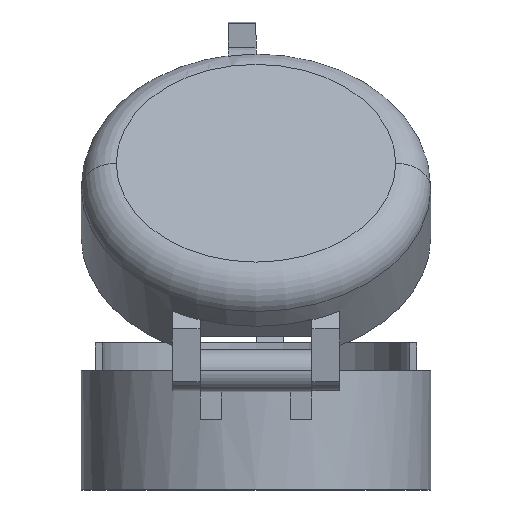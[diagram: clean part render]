
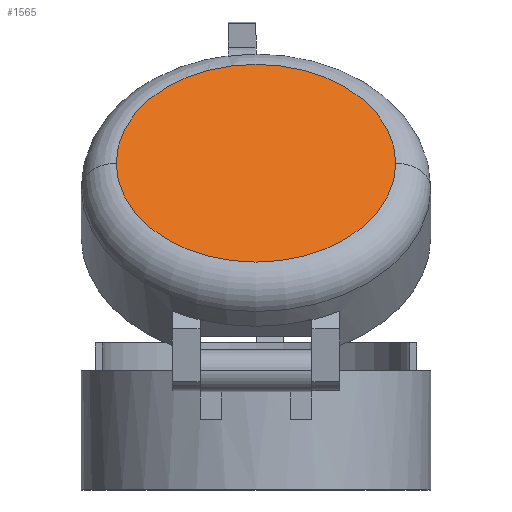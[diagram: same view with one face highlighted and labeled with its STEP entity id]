
A CAD part, front view. The second image highlights one B-rep face of the part: STEP entity #1565.
In plain terms, the highlighted planar face has unit normal (0, -0.707, 0.707) as drawn and (0, 0, 1) by its records, which use the part's own axes.
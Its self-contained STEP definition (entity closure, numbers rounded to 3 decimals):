
#47 = FACE_OUTER_BOUND ( 'NONE', #1490, .T. ) ;
#206 = VERTEX_POINT ( 'NONE', #1446 ) ;
#269 = DIRECTION ( 'NONE',  ( 1., 0., 0. ) ) ;
#277 = DIRECTION ( 'NONE',  ( 1., 0., 0. ) ) ;
#286 = CARTESIAN_POINT ( 'NONE',  ( -20., 0., 15. ) ) ;
#421 = VERTEX_POINT ( 'NONE', #286 ) ;
#447 = CARTESIAN_POINT ( 'NONE',  ( 0., 0., 15. ) ) ;
#683 = EDGE_CURVE ( 'NONE', #206, #421, #1662, .T. ) ;
#719 = DIRECTION ( 'NONE',  ( 0., 0., 1. ) ) ;
#731 = CARTESIAN_POINT ( 'NONE',  ( 0., 0., 15. ) ) ;
#918 = AXIS2_PLACEMENT_3D ( 'NONE', #731, #1829, #277 ) ;
#951 = EDGE_CURVE ( 'NONE', #421, #206, #1437, .T. ) ;
#969 = PLANE ( 'NONE',  #1965 ) ;
#1007 = DIRECTION ( 'NONE',  ( 1., 0., 0. ) ) ;
#1437 = CIRCLE ( 'NONE', #918, 20. ) ;
#1446 = CARTESIAN_POINT ( 'NONE',  ( 20., 0., 15. ) ) ;
#1490 = EDGE_LOOP ( 'NONE', ( #2757, #2091 ) ) ;
#1565 = ADVANCED_FACE ( 'NONE', ( #47 ), #969, .T. ) ;
#1628 = AXIS2_PLACEMENT_3D ( 'NONE', #447, #2232, #1007 ) ;
#1662 = CIRCLE ( 'NONE', #1628, 20. ) ;
#1829 = DIRECTION ( 'NONE',  ( 0., 0., 1. ) ) ;
#1965 = AXIS2_PLACEMENT_3D ( 'NONE', #2346, #719, #269 ) ;
#2091 = ORIENTED_EDGE ( 'NONE', *, *, #951, .T. ) ;
#2232 = DIRECTION ( 'NONE',  ( 0., 0., 1. ) ) ;
#2346 = CARTESIAN_POINT ( 'NONE',  ( 0., 0., 15. ) ) ;
#2757 = ORIENTED_EDGE ( 'NONE', *, *, #683, .T. ) ;
